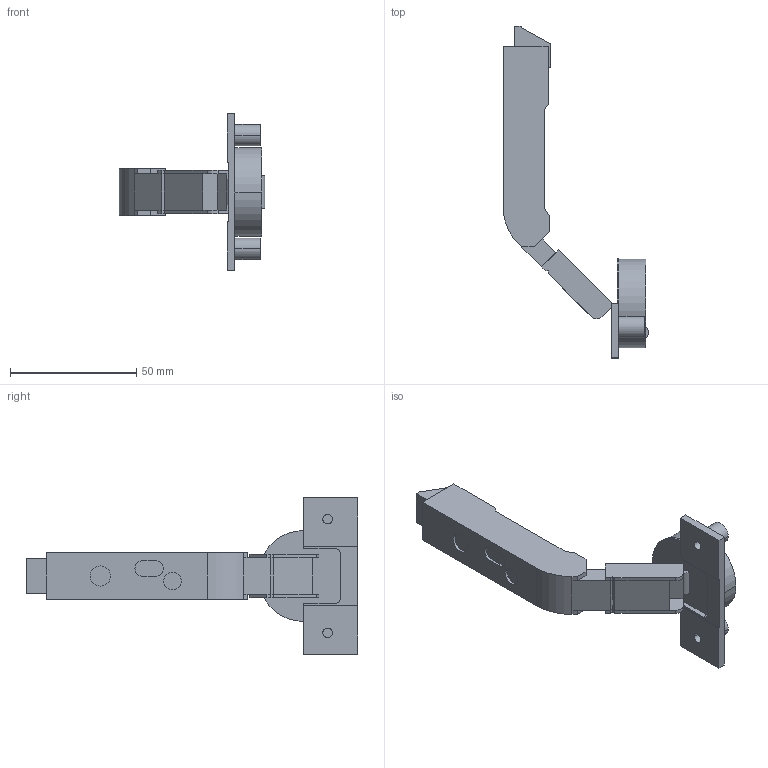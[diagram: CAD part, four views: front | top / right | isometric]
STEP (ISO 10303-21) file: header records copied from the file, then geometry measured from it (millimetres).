
FILE_DESCRIPTION (( 'STEP AP214' ), '1' );
FILE_NAME ('Scharnier T Click-on PCC B_BB, Dübel.step', '2014-03-25T12:07:56', ( '' ), ( '' ), 'SwSTEP 2.0', 'SolidWorks 2013', '' );
FILE_SCHEMA (( 'AUTOMOTIVE_DESIGN' ));
Length unit declared in the file: millimetre
Products named in the file (1): Scharnier T Click-on PCC B_BB, Dübel
Bounding box: 57.59 x 131.39 x 62 mm (x, y, z)
Volume: 45002.4 mm3; surface area: 14715.4 mm2
Topology: 1 solids, 1 shells, 102 faces, 254 edges, 164 vertices
Faces by surface type: plane 76, cylinder 26
Entity records: 3036 total; most frequent: CARTESIAN_POINT 521, DIRECTION 512, ORIENTED_EDGE 508, EDGE_CURVE 254, VECTOR 202, LINE 202, VERTEX_POINT 164, AXIS2_PLACEMENT_3D 155
